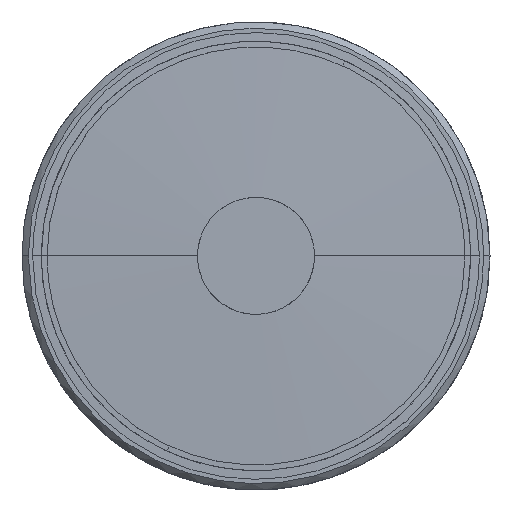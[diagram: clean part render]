
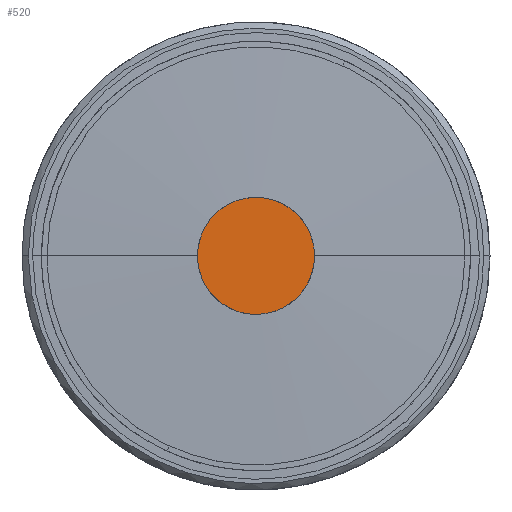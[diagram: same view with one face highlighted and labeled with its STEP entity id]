
A CAD part, top view. The second image highlights one B-rep face of the part: STEP entity #520.
In plain terms, the highlighted planar face has unit normal (0, 0, 1).
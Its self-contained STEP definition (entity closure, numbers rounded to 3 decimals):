
#520=ADVANCED_FACE('',(#1106),#8218,.T.);
#1106=FACE_OUTER_BOUND('',#1730,.T.);
#1730=EDGE_LOOP('',(#3637,#3638));
#3637=ORIENTED_EDGE('',*,*,#5470,.F.);
#3638=ORIENTED_EDGE('',*,*,#5466,.F.);
#5466=EDGE_CURVE('',#7795,#7796,#6350,.T.);
#5470=EDGE_CURVE('',#7796,#7795,#6352,.T.);
#6350=(
BOUNDED_CURVE()
B_SPLINE_CURVE(2,(#20740,#20741,#20742,#20743,#20744),.UNSPECIFIED.,.F.,
 .F.)
B_SPLINE_CURVE_WITH_KNOTS((3,2,3),(0.,43.197,86.394),
 .UNSPECIFIED.)
CURVE()
GEOMETRIC_REPRESENTATION_ITEM()
RATIONAL_B_SPLINE_CURVE((1.,0.707,1.,0.707,1.))
REPRESENTATION_ITEM('')
);
#6352=(
BOUNDED_CURVE()
B_SPLINE_CURVE(2,(#20754,#20755,#20756,#20757,#20758),.UNSPECIFIED.,.F.,
 .F.)
B_SPLINE_CURVE_WITH_KNOTS((3,2,3),(0.,43.197,86.394),
 .UNSPECIFIED.)
CURVE()
GEOMETRIC_REPRESENTATION_ITEM()
RATIONAL_B_SPLINE_CURVE((1.,0.707,1.,0.707,1.))
REPRESENTATION_ITEM('')
);
#7795=VERTEX_POINT('',#20672);
#7796=VERTEX_POINT('',#20673);
#8218=PLANE('',#8820);
#8820=AXIS2_PLACEMENT_3D('',#20545,#9013,$);
#9013=DIRECTION('',(0.,0.,1.));
#20545=CARTESIAN_POINT('',(-33.,-35.928,451.831));
#20672=CARTESIAN_POINT('',(-27.5,-2.928,451.831));
#20673=CARTESIAN_POINT('',(27.5,-2.928,451.831));
#20740=CARTESIAN_POINT('',(-27.5,-2.928,451.831));
#20741=CARTESIAN_POINT('',(-27.5,24.572,451.831));
#20742=CARTESIAN_POINT('',(0.,24.572,451.831));
#20743=CARTESIAN_POINT('',(27.5,24.572,451.831));
#20744=CARTESIAN_POINT('',(27.5,-2.928,451.831));
#20754=CARTESIAN_POINT('',(27.5,-2.928,451.831));
#20755=CARTESIAN_POINT('',(27.5,-30.428,451.831));
#20756=CARTESIAN_POINT('',(0.,-30.428,451.831));
#20757=CARTESIAN_POINT('',(-27.5,-30.428,451.831));
#20758=CARTESIAN_POINT('',(-27.5,-2.928,451.831));
